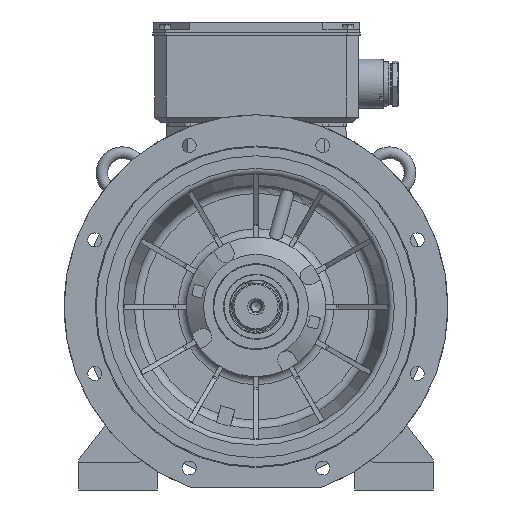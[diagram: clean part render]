
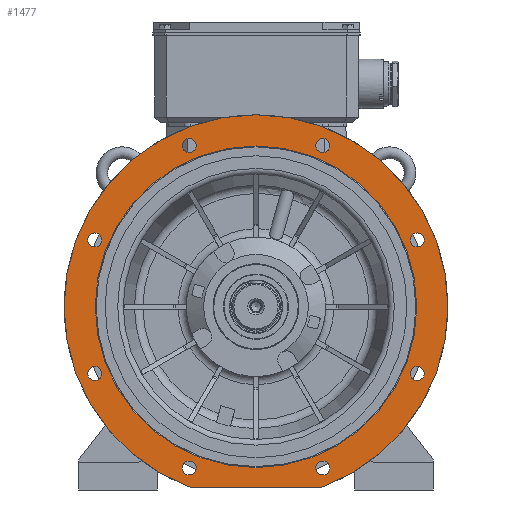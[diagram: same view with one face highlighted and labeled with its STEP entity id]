
A CAD part, front view. The second image highlights one B-rep face of the part: STEP entity #1477.
In plain terms, the highlighted planar face has unit normal (0, -1, 0).
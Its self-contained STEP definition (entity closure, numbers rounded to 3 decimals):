
#1477 = ADVANCED_FACE( '', ( #4152, #4153, #4154, #4155, #4156, #4157, #4158, #4159, #4160, #4161 ), #4162, .F. );
#4152 = FACE_BOUND( '', #11169, .T. );
#4153 = FACE_BOUND( '', #11170, .T. );
#4154 = FACE_BOUND( '', #11171, .T. );
#4155 = FACE_BOUND( '', #11172, .T. );
#4156 = FACE_BOUND( '', #11173, .T. );
#4157 = FACE_BOUND( '', #11174, .T. );
#4158 = FACE_BOUND( '', #11175, .T. );
#4159 = FACE_BOUND( '', #11176, .T. );
#4160 = FACE_BOUND( '', #11177, .T. );
#4161 = FACE_OUTER_BOUND( '', #11178, .T. );
#4162 = PLANE( '', #11179 );
#11169 = EDGE_LOOP( '', ( #21389 ) );
#11170 = EDGE_LOOP( '', ( #21390 ) );
#11171 = EDGE_LOOP( '', ( #21391 ) );
#11172 = EDGE_LOOP( '', ( #21392 ) );
#11173 = EDGE_LOOP( '', ( #21393 ) );
#11174 = EDGE_LOOP( '', ( #21394 ) );
#11175 = EDGE_LOOP( '', ( #21395 ) );
#11176 = EDGE_LOOP( '', ( #21396 ) );
#11177 = EDGE_LOOP( '', ( #21397 ) );
#11178 = EDGE_LOOP( '', ( #21398, #21399, #21400, #21401 ) );
#11179 = AXIS2_PLACEMENT_3D( '', #21402, #21403, #21404 );
#21389 = ORIENTED_EDGE( '', *, *, #25976, .F. );
#21390 = ORIENTED_EDGE( '', *, *, #25978, .F. );
#21391 = ORIENTED_EDGE( '', *, *, #25980, .F. );
#21392 = ORIENTED_EDGE( '', *, *, #25982, .F. );
#21393 = ORIENTED_EDGE( '', *, *, #25984, .F. );
#21394 = ORIENTED_EDGE( '', *, *, #25986, .F. );
#21395 = ORIENTED_EDGE( '', *, *, #25988, .F. );
#21396 = ORIENTED_EDGE( '', *, *, #25990, .F. );
#21397 = ORIENTED_EDGE( '', *, *, #26459, .F. );
#21398 = ORIENTED_EDGE( '', *, *, #23869, .T. );
#21399 = ORIENTED_EDGE( '', *, *, #26191, .F. );
#21400 = ORIENTED_EDGE( '', *, *, #23866, .T. );
#21401 = ORIENTED_EDGE( '', *, *, #23872, .F. );
#21402 = CARTESIAN_POINT( '', ( 0., -104.997, 276.4 ) );
#21403 = DIRECTION( '', ( 0., 1., 0. ) );
#21404 = DIRECTION( '', ( 0., 0., 1. ) );
#23866 = EDGE_CURVE( '', #28669, #28670, #28671, .F. );
#23869 = EDGE_CURVE( '', #28674, #28675, #28676, .F. );
#23872 = EDGE_CURVE( '', #28674, #28670, #28679, .T. );
#25976 = EDGE_CURVE( '', #32207, #32207, #32208, .T. );
#25978 = EDGE_CURVE( '', #32211, #32211, #32212, .T. );
#25980 = EDGE_CURVE( '', #32215, #32215, #32216, .T. );
#25982 = EDGE_CURVE( '', #32219, #32219, #32220, .T. );
#25984 = EDGE_CURVE( '', #32223, #32223, #32224, .T. );
#25986 = EDGE_CURVE( '', #32227, #32227, #32228, .T. );
#25988 = EDGE_CURVE( '', #32231, #32231, #32232, .T. );
#25990 = EDGE_CURVE( '', #32235, #32235, #32236, .T. );
#26191 = EDGE_CURVE( '', #28669, #28675, #32579, .T. );
#26459 = EDGE_CURVE( '', #32996, #32996, #32997, .T. );
#28669 = VERTEX_POINT( '', #36915 );
#28670 = VERTEX_POINT( '', #36916 );
#28671 = CIRCLE( '', #36917, 3. );
#28674 = VERTEX_POINT( '', #36922 );
#28675 = VERTEX_POINT( '', #36923 );
#28676 = CIRCLE( '', #36924, 3. );
#28679 = CIRCLE( '', #36929, 330. );
#32207 = VERTEX_POINT( '', #45594 );
#32208 = CIRCLE( '', #45595, 12. );
#32211 = VERTEX_POINT( '', #45598 );
#32212 = CIRCLE( '', #45599, 12. );
#32215 = VERTEX_POINT( '', #45602 );
#32216 = CIRCLE( '', #45603, 12. );
#32219 = VERTEX_POINT( '', #45606 );
#32220 = CIRCLE( '', #45607, 12. );
#32223 = VERTEX_POINT( '', #45610 );
#32224 = CIRCLE( '', #45611, 12. );
#32227 = VERTEX_POINT( '', #45614 );
#32228 = CIRCLE( '', #45615, 12. );
#32231 = VERTEX_POINT( '', #45618 );
#32232 = CIRCLE( '', #45619, 12. );
#32235 = VERTEX_POINT( '', #45622 );
#32236 = CIRCLE( '', #45623, 12. );
#32579 = LINE( '', #46325, #46326 );
#32996 = VERTEX_POINT( '', #48163 );
#32997 = CIRCLE( '', #48164, 276.4 );
#36915 = CARTESIAN_POINT( '', ( 112.606, -104.997, -310. ) );
#36916 = CARTESIAN_POINT( '', ( 113.639, -104.997, -309.817 ) );
#36917 = AXIS2_PLACEMENT_3D( '', #49808, #49809, #49810 );
#36922 = CARTESIAN_POINT( '', ( -113.639, -104.997, -309.817 ) );
#36923 = CARTESIAN_POINT( '', ( -112.606, -104.997, -310. ) );
#36924 = AXIS2_PLACEMENT_3D( '', #49813, #49814, #49815 );
#36929 = AXIS2_PLACEMENT_3D( '', #49818, #49819, #49820 );
#45594 = CARTESIAN_POINT( '', ( -265.164, -104.997, 114.805 ) );
#45595 = AXIS2_PLACEMENT_3D( '', #52722, #52723, #52724 );
#45598 = CARTESIAN_POINT( '', ( -265.164, -104.997, -114.805 ) );
#45599 = AXIS2_PLACEMENT_3D( '', #52728, #52729, #52730 );
#45602 = CARTESIAN_POINT( '', ( -102.805, -104.997, -277.164 ) );
#45603 = AXIS2_PLACEMENT_3D( '', #52734, #52735, #52736 );
#45606 = CARTESIAN_POINT( '', ( 126.805, -104.997, -277.164 ) );
#45607 = AXIS2_PLACEMENT_3D( '', #52740, #52741, #52742 );
#45610 = CARTESIAN_POINT( '', ( 289.164, -104.997, -114.805 ) );
#45611 = AXIS2_PLACEMENT_3D( '', #52746, #52747, #52748 );
#45614 = CARTESIAN_POINT( '', ( 289.164, -104.997, 114.805 ) );
#45615 = AXIS2_PLACEMENT_3D( '', #52752, #52753, #52754 );
#45618 = CARTESIAN_POINT( '', ( 126.805, -104.997, 277.164 ) );
#45619 = AXIS2_PLACEMENT_3D( '', #52758, #52759, #52760 );
#45622 = CARTESIAN_POINT( '', ( -102.805, -104.997, 277.164 ) );
#45623 = AXIS2_PLACEMENT_3D( '', #52764, #52765, #52766 );
#46325 = CARTESIAN_POINT( '', ( -113.137, -104.997, -310. ) );
#46326 = VECTOR( '', #53071, 1000. );
#48163 = CARTESIAN_POINT( '', ( 0., -104.997, -276.4 ) );
#48164 = AXIS2_PLACEMENT_3D( '', #53381, #53382, #53383 );
#49808 = CARTESIAN_POINT( '', ( 112.606, -104.997, -307. ) );
#49809 = DIRECTION( '', ( 0., 1., 0. ) );
#49810 = DIRECTION( '', ( 0., 0., 1. ) );
#49813 = CARTESIAN_POINT( '', ( -112.606, -104.997, -307. ) );
#49814 = DIRECTION( '', ( 0., 1., 0. ) );
#49815 = DIRECTION( '', ( 0., 0., 1. ) );
#49818 = CARTESIAN_POINT( '', ( 0., -104.997, 0. ) );
#49819 = DIRECTION( '', ( 0., 1., 0. ) );
#49820 = DIRECTION( '', ( 0., 0., 1. ) );
#52722 = CARTESIAN_POINT( '', ( -277.164, -104.997, 114.805 ) );
#52723 = DIRECTION( '', ( 0., -1., 0. ) );
#52724 = DIRECTION( '', ( 1., 0., 0. ) );
#52728 = CARTESIAN_POINT( '', ( -277.164, -104.997, -114.805 ) );
#52729 = DIRECTION( '', ( 0., -1., 0. ) );
#52730 = DIRECTION( '', ( 1., 0., 0. ) );
#52734 = CARTESIAN_POINT( '', ( -114.805, -104.997, -277.164 ) );
#52735 = DIRECTION( '', ( 0., -1., 0. ) );
#52736 = DIRECTION( '', ( 1., 0., 0. ) );
#52740 = CARTESIAN_POINT( '', ( 114.805, -104.997, -277.164 ) );
#52741 = DIRECTION( '', ( 0., -1., 0. ) );
#52742 = DIRECTION( '', ( 1., 0., 0. ) );
#52746 = CARTESIAN_POINT( '', ( 277.164, -104.997, -114.805 ) );
#52747 = DIRECTION( '', ( 0., -1., 0. ) );
#52748 = DIRECTION( '', ( 1., 0., 0. ) );
#52752 = CARTESIAN_POINT( '', ( 277.164, -104.997, 114.805 ) );
#52753 = DIRECTION( '', ( 0., -1., 0. ) );
#52754 = DIRECTION( '', ( 1., 0., 0. ) );
#52758 = CARTESIAN_POINT( '', ( 114.805, -104.997, 277.164 ) );
#52759 = DIRECTION( '', ( 0., -1., 0. ) );
#52760 = DIRECTION( '', ( 1., 0., 0. ) );
#52764 = CARTESIAN_POINT( '', ( -114.805, -104.997, 277.164 ) );
#52765 = DIRECTION( '', ( 0., -1., 0. ) );
#52766 = DIRECTION( '', ( 1., 0., 0. ) );
#53071 = DIRECTION( '', ( -1., 0., 0. ) );
#53381 = CARTESIAN_POINT( '', ( 0., -104.997, 0. ) );
#53382 = DIRECTION( '', ( 0., -1., 0. ) );
#53383 = DIRECTION( '', ( 0., 0., -1. ) );
